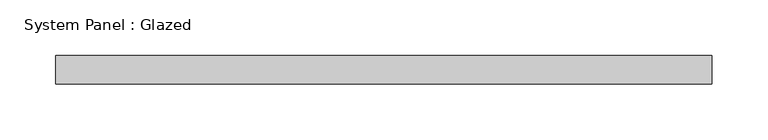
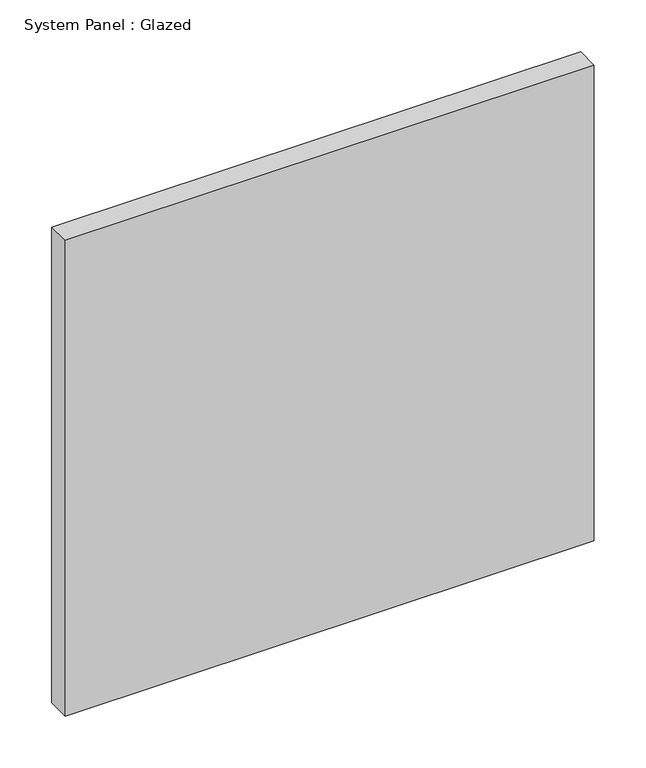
"""IFC4 building model written with IfcOpenShell, lengths in millimetres: plate geometry, System Panel : Glazed."""

from ifc_helpers import new_model, si_unit, origin, origin_with_axes, place, context, project, spatial, polyline, outline, extrude, source, transform, mapped, element, save


def system_panel_glazed_9326cc08(model_context):
    return source(origin(), model_context, "Body", "SweptSolid", [
        extrude(outline(polyline([(293.9897663, -12.7), (-293.9897663, -12.7), (-293.9897663, 12.7), (293.9897663, 12.7), (293.9897663, -12.7)])), origin_with_axes(), (0.0, 0.0, 1.0), 558.8),
    ])


if __name__ == "__main__":
    model = new_model("IFC4")
    model_context = context("Model", 3, world=origin())
    ifc_project = project(units=[si_unit("LENGTHUNIT", "METRE", prefix="MILLI")], contexts=[model_context])
    site = spatial("IfcSite", under=ifc_project)
    building = spatial("IfcBuilding", under=site)
    placement = place(None, origin())
    system_panel_glazed_shape = system_panel_glazed_9326cc08(model_context)
    element("IfcPlate", 1, ObjectType="System Panel : Glazed", at=placement, inside=building, context=model_context, shape_type="MappedRepresentation", body=[
        mapped(system_panel_glazed_shape, transform((0.0, 0.0, 0.0), x_axis=(1.0, 0.0, 0.0), y_axis=(0.0, 1.0, 0.0), z_axis=(0.0, 0.0, 1.0))),
    ])
    save(model, "model.ifc")
